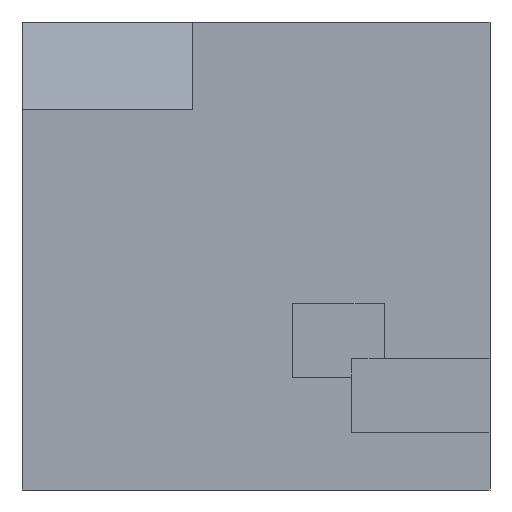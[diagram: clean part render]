
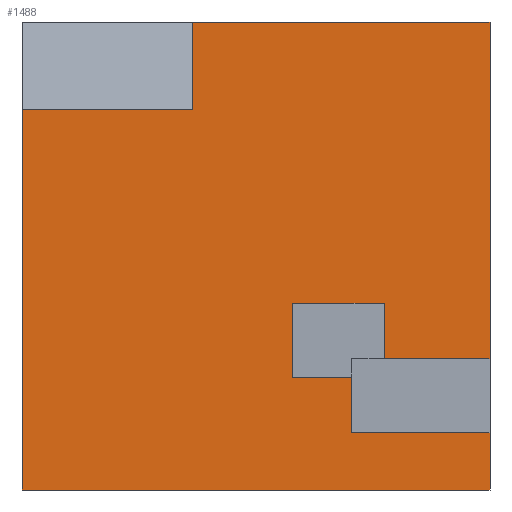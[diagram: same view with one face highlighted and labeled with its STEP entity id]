
A CAD part, left-side view. The second image highlights one B-rep face of the part: STEP entity #1488.
In plain terms, the highlighted planar face has unit normal (-1, 0, 0).
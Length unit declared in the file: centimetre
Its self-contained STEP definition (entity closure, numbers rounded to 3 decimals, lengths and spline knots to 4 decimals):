
#46 = DIRECTION ( 'NONE',  ( 0., 0., -1. ) ) ;
#75 = CARTESIAN_POINT ( 'NONE',  ( 0., 0., 0. ) ) ;
#85 = EDGE_CURVE ( 'NONE', #364, #187, #519, .T. ) ;
#88 = ORIENTED_EDGE ( 'NONE', *, *, #432, .F. ) ;
#94 = VERTEX_POINT ( 'NONE', #1269 ) ;
#125 = LINE ( 'NONE', #629, #871 ) ;
#149 = CARTESIAN_POINT ( 'NONE',  ( 0., 226.0104, 241.1977 ) ) ;
#175 = ORIENTED_EDGE ( 'NONE', *, *, #230, .T. ) ;
#180 = EDGE_CURVE ( 'NONE', #657, #328, #1511, .T. ) ;
#187 = VERTEX_POINT ( 'NONE', #489 ) ;
#188 = CARTESIAN_POINT ( 'NONE',  ( 0., 1000., 812.0657 ) ) ;
#217 = CARTESIAN_POINT ( 'NONE',  ( 0., 226.0104, 399.3294 ) ) ;
#225 = VECTOR ( 'NONE', #46, 100. ) ;
#230 = EDGE_CURVE ( 'NONE', #1035, #1431, #1116, .T. ) ;
#247 = DIRECTION ( 'NONE',  ( 0., -1., 0. ) ) ;
#270 = CARTESIAN_POINT ( 'NONE',  ( 0., 1000., 1000. ) ) ;
#299 = VECTOR ( 'NONE', #247, 100. ) ;
#310 = CARTESIAN_POINT ( 'NONE',  ( 0., 295.3866, 122.4099 ) ) ;
#317 = CARTESIAN_POINT ( 'NONE',  ( 0., 226.0104, 241.1977 ) ) ;
#319 = ORIENTED_EDGE ( 'NONE', *, *, #1219, .F. ) ;
#328 = VERTEX_POINT ( 'NONE', #1178 ) ;
#340 = ORIENTED_EDGE ( 'NONE', *, *, #180, .F. ) ;
#364 = VERTEX_POINT ( 'NONE', #1331 ) ;
#377 = DIRECTION ( 'NONE',  ( 0., 0., -1. ) ) ;
#393 = DIRECTION ( 'NONE',  ( 0., -1., 0. ) ) ;
#408 = VECTOR ( 'NONE', #1297, 100. ) ;
#422 = DIRECTION ( 'NONE',  ( 1., 0., 0. ) ) ;
#432 = EDGE_CURVE ( 'NONE', #1566, #1164, #1323, .T. ) ;
#434 = VERTEX_POINT ( 'NONE', #832 ) ;
#435 = LINE ( 'NONE', #947, #1159 ) ;
#438 = ORIENTED_EDGE ( 'NONE', *, *, #1440, .T. ) ;
#445 = VERTEX_POINT ( 'NONE', #449 ) ;
#449 = CARTESIAN_POINT ( 'NONE',  ( 0., 0., 1000. ) ) ;
#478 = ORIENTED_EDGE ( 'NONE', *, *, #982, .F. ) ;
#489 = CARTESIAN_POINT ( 'NONE',  ( 0., 226.0104, 280.8693 ) ) ;
#510 = CARTESIAN_POINT ( 'NONE',  ( 0., 1000., 1000. ) ) ;
#519 = LINE ( 'NONE', #1136, #1023 ) ;
#531 = CARTESIAN_POINT ( 'NONE',  ( 0., 0., 122.4099 ) ) ;
#533 = VERTEX_POINT ( 'NONE', #643 ) ;
#547 = DIRECTION ( 'NONE',  ( 0., 0., 1. ) ) ;
#559 = CARTESIAN_POINT ( 'NONE',  ( 0., 421.9639, 241.1977 ) ) ;
#563 = FACE_OUTER_BOUND ( 'NONE', #836, .T. ) ;
#574 = CARTESIAN_POINT ( 'NONE',  ( 0., 226.0104, 399.3294 ) ) ;
#625 = DIRECTION ( 'NONE',  ( 0., 0., -1. ) ) ;
#629 = CARTESIAN_POINT ( 'NONE',  ( 0., 1000., 0. ) ) ;
#633 = ORIENTED_EDGE ( 'NONE', *, *, #1508, .F. ) ;
#643 = CARTESIAN_POINT ( 'NONE',  ( 0., 0., 122.4099 ) ) ;
#657 = VERTEX_POINT ( 'NONE', #1061 ) ;
#659 = VERTEX_POINT ( 'NONE', #75 ) ;
#663 = CARTESIAN_POINT ( 'NONE',  ( 0., 636.3658, 1000. ) ) ;
#680 = CARTESIAN_POINT ( 'NONE',  ( 0., 636.3658, 1000. ) ) ;
#713 = DIRECTION ( 'NONE',  ( 0., 1., 0. ) ) ;
#717 = EDGE_CURVE ( 'NONE', #1164, #657, #1567, .T. ) ;
#731 = EDGE_CURVE ( 'NONE', #94, #1035, #435, .T. ) ;
#735 = VECTOR ( 'NONE', #393, 100. ) ;
#752 = CARTESIAN_POINT ( 'NONE',  ( 0., 1000., 0. ) ) ;
#769 = EDGE_CURVE ( 'NONE', #445, #364, #865, .T. ) ;
#784 = DIRECTION ( 'NONE',  ( 0., 1., 0. ) ) ;
#792 = DIRECTION ( 'NONE',  ( 0., 0., -1. ) ) ;
#801 = CARTESIAN_POINT ( 'NONE',  ( 0., 1000., 1000. ) ) ;
#807 = ORIENTED_EDGE ( 'NONE', *, *, #1360, .F. ) ;
#811 = ORIENTED_EDGE ( 'NONE', *, *, #769, .F. ) ;
#832 = CARTESIAN_POINT ( 'NONE',  ( 0., 295.3866, 122.4099 ) ) ;
#836 = EDGE_LOOP ( 'NONE', ( #319, #478, #633, #340, #1380, #88, #1171, #1181, #811, #1589, #807, #1064, #175, #438 ) ) ;
#851 = VECTOR ( 'NONE', #377, 100. ) ;
#856 = CARTESIAN_POINT ( 'NONE',  ( 0., 0., 1000. ) ) ;
#865 = LINE ( 'NONE', #1487, #1498 ) ;
#871 = VECTOR ( 'NONE', #1117, 100. ) ;
#881 = LINE ( 'NONE', #663, #1519 ) ;
#895 = DIRECTION ( 'NONE',  ( 0., 0., 1. ) ) ;
#922 = CARTESIAN_POINT ( 'NONE',  ( 0., 421.9639, 399.3294 ) ) ;
#947 = CARTESIAN_POINT ( 'NONE',  ( 0., 636.3658, 812.0657 ) ) ;
#949 = VECTOR ( 'NONE', #1357, 100. ) ;
#982 = EDGE_CURVE ( 'NONE', #434, #533, #1025, .T. ) ;
#1023 = VECTOR ( 'NONE', #784, 100. ) ;
#1025 = LINE ( 'NONE', #531, #1557 ) ;
#1035 = VERTEX_POINT ( 'NONE', #188 ) ;
#1056 = PLANE ( 'NONE',  #1493 ) ;
#1061 = CARTESIAN_POINT ( 'NONE',  ( 0., 421.9639, 241.1977 ) ) ;
#1064 = ORIENTED_EDGE ( 'NONE', *, *, #731, .T. ) ;
#1116 = LINE ( 'NONE', #270, #851 ) ;
#1117 = DIRECTION ( 'NONE',  ( 0., -1., 0. ) ) ;
#1136 = CARTESIAN_POINT ( 'NONE',  ( 0., 0., 280.8693 ) ) ;
#1159 = VECTOR ( 'NONE', #713, 100. ) ;
#1164 = VERTEX_POINT ( 'NONE', #922 ) ;
#1171 = ORIENTED_EDGE ( 'NONE', *, *, #1552, .F. ) ;
#1178 = CARTESIAN_POINT ( 'NONE',  ( 0., 295.3866, 241.1977 ) ) ;
#1181 = ORIENTED_EDGE ( 'NONE', *, *, #85, .F. ) ;
#1219 = EDGE_CURVE ( 'NONE', #533, #659, #1613, .T. ) ;
#1247 = LINE ( 'NONE', #510, #299 ) ;
#1264 = VECTOR ( 'NONE', #1588, 100. ) ;
#1269 = CARTESIAN_POINT ( 'NONE',  ( 0., 636.3658, 812.0657 ) ) ;
#1287 = DIRECTION ( 'NONE',  ( 0., -1., 0. ) ) ;
#1297 = DIRECTION ( 'NONE',  ( 0., 0., -1. ) ) ;
#1323 = LINE ( 'NONE', #217, #1264 ) ;
#1331 = CARTESIAN_POINT ( 'NONE',  ( 0., 0., 280.8693 ) ) ;
#1338 = VECTOR ( 'NONE', #547, 100. ) ;
#1357 = DIRECTION ( 'NONE',  ( 0., 0., -1. ) ) ;
#1360 = EDGE_CURVE ( 'NONE', #94, #1526, #881, .T. ) ;
#1380 = ORIENTED_EDGE ( 'NONE', *, *, #717, .F. ) ;
#1427 = LINE ( 'NONE', #317, #1338 ) ;
#1428 = EDGE_CURVE ( 'NONE', #1526, #445, #1247, .T. ) ;
#1431 = VERTEX_POINT ( 'NONE', #752 ) ;
#1440 = EDGE_CURVE ( 'NONE', #1431, #659, #125, .T. ) ;
#1487 = CARTESIAN_POINT ( 'NONE',  ( 0., 0., 1000. ) ) ;
#1488 = ADVANCED_FACE ( 'NONE', ( #563 ), #1056, .F. ) ;
#1493 = AXIS2_PLACEMENT_3D ( 'NONE', #801, #422, #792 ) ;
#1498 = VECTOR ( 'NONE', #625, 100. ) ;
#1508 = EDGE_CURVE ( 'NONE', #328, #434, #1563, .T. ) ;
#1511 = LINE ( 'NONE', #149, #735 ) ;
#1519 = VECTOR ( 'NONE', #895, 100. ) ;
#1526 = VERTEX_POINT ( 'NONE', #680 ) ;
#1552 = EDGE_CURVE ( 'NONE', #187, #1566, #1427, .T. ) ;
#1557 = VECTOR ( 'NONE', #1287, 100. ) ;
#1563 = LINE ( 'NONE', #310, #225 ) ;
#1566 = VERTEX_POINT ( 'NONE', #574 ) ;
#1567 = LINE ( 'NONE', #559, #408 ) ;
#1588 = DIRECTION ( 'NONE',  ( 0., 1., 0. ) ) ;
#1589 = ORIENTED_EDGE ( 'NONE', *, *, #1428, .F. ) ;
#1613 = LINE ( 'NONE', #856, #949 ) ;
